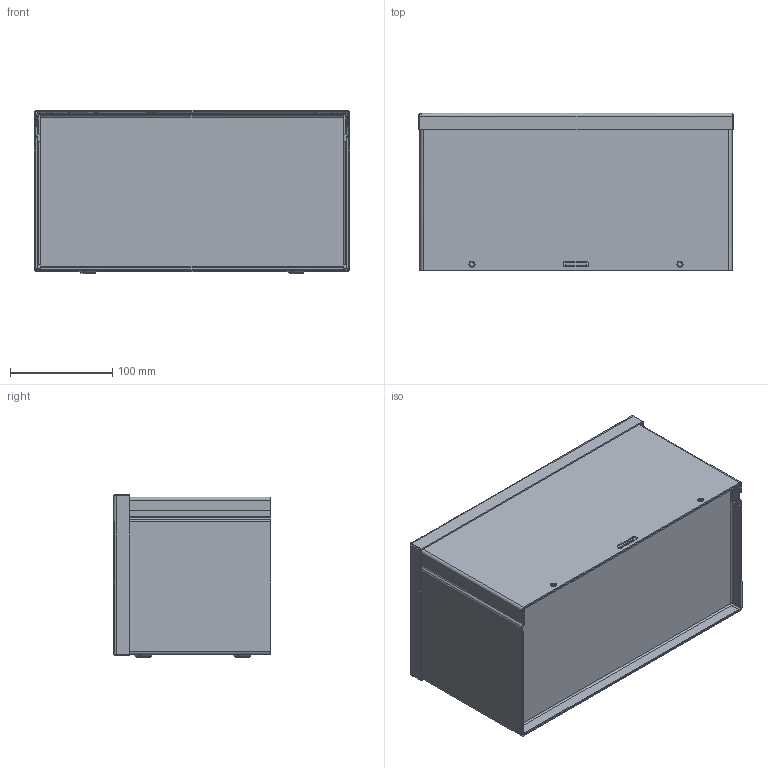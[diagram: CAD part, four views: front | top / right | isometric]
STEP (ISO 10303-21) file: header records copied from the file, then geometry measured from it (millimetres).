
FILE_DESCRIPTION((''),'2;1');
FILE_NAME('/scratch/bitterling/a00628/f-6612rtgv.stp', '2005-01-28T08:40:51',('User'),('SDRC'),'I-DEAS Master Series 9','UNIX', 'Yes');
FILE_SCHEMA(('AUTOMOTIVE_DESIGN { 1 0 10303 214 0 1 1 1 }'));
Length unit declared in the file: inch
Products named in the file (5): assy_3r_econo_trough_6x6x12; 87790610; 87790642; 87790640; 87790612
Assembly tree (4 placements, depth 2):
  assy_3r_econo_trough_6x6x12
    87790610
    87790642
    87790640
    87790612
Bounding box: 308.36 x 153.8 x 159.38 mm (x, y, z)
Volume: 362458.6 mm3; surface area: 525576.7 mm2
Topology: 4 solids, 4 shells, 174 faces, 444 edges, 286 vertices
Faces by surface type: bspline 174
Entity records: 5628 total; most frequent: CARTESIAN_POINT 2750, ORIENTED_EDGE 888, EDGE_CURVE 444, VERTEX_POINT 286, QUASI_UNIFORM_CURVE 266, EDGE_LOOP 202, FACE_OUTER_BOUND 174, ADVANCED_FACE 174
